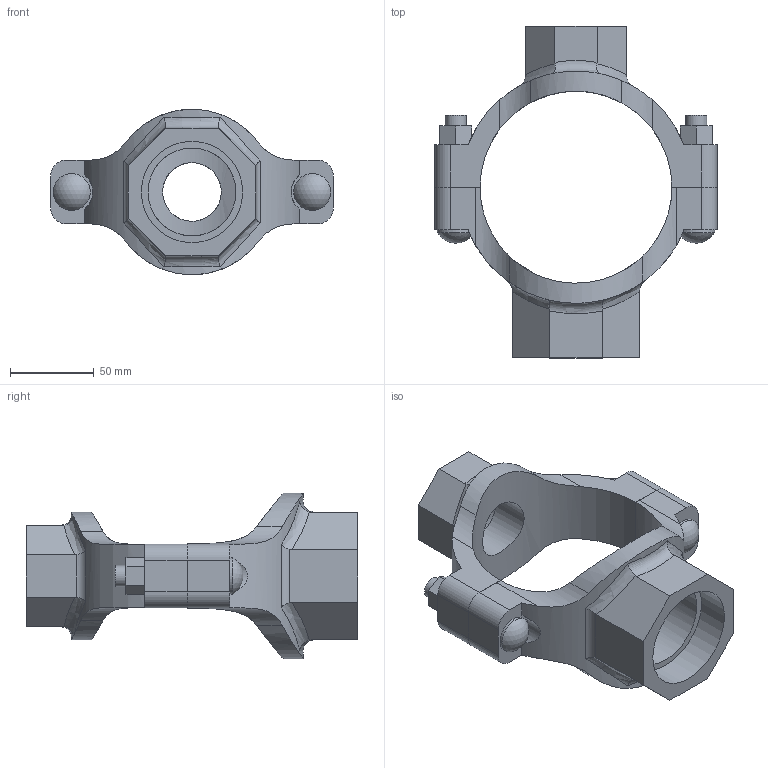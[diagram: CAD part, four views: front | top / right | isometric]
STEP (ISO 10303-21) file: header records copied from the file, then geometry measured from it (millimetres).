
FILE_DESCRIPTION(/* description */ ('VIC MECH-T BRANCH OUTLET CROSS STYLE 920N (THD)','CAx-IF Rec.Pracs.---Representation and Presentation of Product Manufacturing Information (PMI)---4.0---2014-10-13'),/* implementation_level */ '2;1');
FILE_NAME(/* name */ 'C:\Users\Vjadhav\AppData\Roaming\Autodesk\ApplicationPlugins\Back Up\Victaulic_IPS_Mechanical-Cross Outlet_Style 920N (FPT)\Victaulic_IPS_Mechanical-Cross Outlet_04.0x01.25x02.0 (100x32x50).stp',/* time_stamp */ '2020-08-06T18:58:32+05:00',/* author */ ('Vjadhav'),/* organization */ ('Victaulic'),/* preprocessor_version */ 'ST-DEVELOPER v17.2',/* originating_system */ 'Autodesk Inventor 2019',/* authorisation */ '');
FILE_SCHEMA (('AP242_MANAGED_MODEL_BASED_3D_ENGINEERING_MIM_LF { 1 0 10303 442 1 1 4 }'));
Length unit declared in the file: inch
Products named in the file (3): 920NT-04.0x01.25x02.0; 920NT-04.0x01.25; 920NT-04.0x02.0
Assembly tree (2 placements, depth 2):
  920NT-04.0x01.25x02.0
    920NT-04.0x01.25
    920NT-04.0x02.0
Bounding box: 168.4 x 197.61 x 98.46 mm (x, y, z)
Volume: 418190.1 mm3; surface area: 96829 mm2
Topology: 2 solids, 2 shells, 135 faces, 362 edges, 244 vertices
Faces by surface type: plane 68, cylinder 53, bspline 8, torus 4, sphere 2
Full cylindrical faces by diameter (mm): 12.7 x4, 21.982 x2, 34.925 x1, 42.164 x1, 52.387 x1, 60.325 x1
Entity records: 5447 total; most frequent: CARTESIAN_POINT 1856, ORIENTED_EDGE 724, DIRECTION 654, EDGE_CURVE 362, VERTEX_POINT 244, AXIS2_PLACEMENT_3D 234, LINE 186, VECTOR 186
